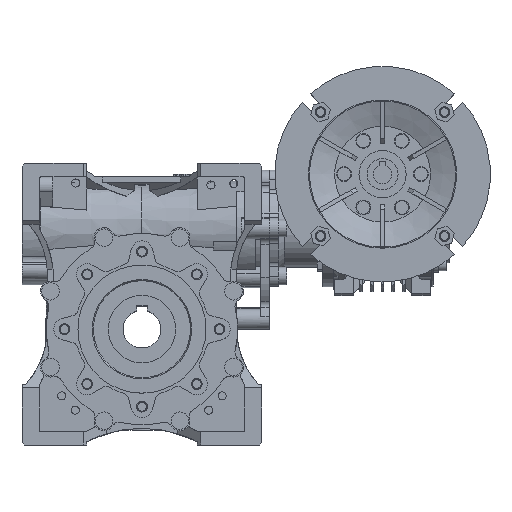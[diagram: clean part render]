
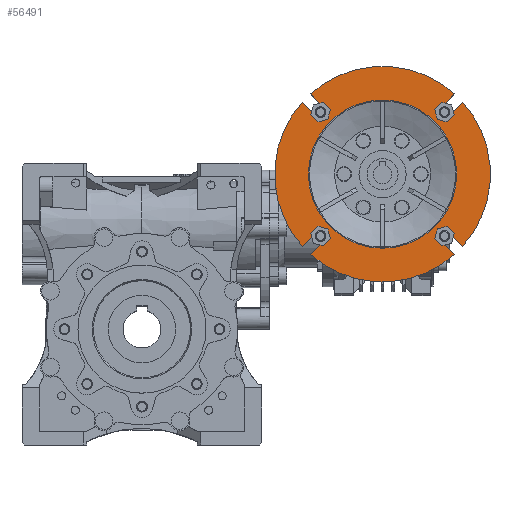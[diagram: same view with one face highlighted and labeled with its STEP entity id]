
A CAD part, top view. The second image highlights one B-rep face of the part: STEP entity #56491.
In plain terms, the highlighted planar face has unit normal (0, 0, 1) as drawn and (1, 0, 0) by its records, which use the part's own axes.
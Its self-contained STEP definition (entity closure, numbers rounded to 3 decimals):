
#1641=PLANE('',#60512);
#5340=LINE('',#85193,#9119);
#5341=LINE('',#85194,#9120);
#5342=LINE('',#85198,#9121);
#5343=LINE('',#85199,#9122);
#5344=LINE('',#85203,#9123);
#5345=LINE('',#85204,#9124);
#5346=LINE('',#85208,#9125);
#5347=LINE('',#85209,#9126);
#9119=VECTOR('',#71899,1000.);
#9120=VECTOR('',#71900,1000.);
#9121=VECTOR('',#71903,1000.);
#9122=VECTOR('',#71904,1000.);
#9123=VECTOR('',#71907,1000.);
#9124=VECTOR('',#71908,1000.);
#9125=VECTOR('',#71911,1000.);
#9126=VECTOR('',#71912,1000.);
#10870=CIRCLE('',#60436,80.);
#10873=CIRCLE('',#60440,80.);
#10875=CIRCLE('',#60443,80.);
#10921=CIRCLE('',#60511,80.);
#10922=CIRCLE('',#60513,55.);
#10923=CIRCLE('',#60514,4.25);
#10924=CIRCLE('',#60515,4.25);
#10925=CIRCLE('',#60516,4.25);
#10926=CIRCLE('',#60517,4.25);
#21934=ORIENTED_EDGE('',*,*,#28313,.F.);
#21935=ORIENTED_EDGE('',*,*,#28314,.F.);
#21936=ORIENTED_EDGE('',*,*,#28315,.T.);
#21937=ORIENTED_EDGE('',*,*,#28138,.T.);
#21938=ORIENTED_EDGE('',*,*,#28316,.T.);
#21939=ORIENTED_EDGE('',*,*,#28317,.F.);
#21940=ORIENTED_EDGE('',*,*,#28318,.T.);
#21941=ORIENTED_EDGE('',*,*,#28148,.T.);
#21942=ORIENTED_EDGE('',*,*,#28319,.T.);
#21943=ORIENTED_EDGE('',*,*,#28320,.F.);
#21944=ORIENTED_EDGE('',*,*,#28321,.T.);
#21945=ORIENTED_EDGE('',*,*,#28144,.T.);
#21946=ORIENTED_EDGE('',*,*,#28322,.T.);
#21947=ORIENTED_EDGE('',*,*,#28323,.F.);
#21948=ORIENTED_EDGE('',*,*,#28324,.T.);
#21949=ORIENTED_EDGE('',*,*,#28311,.T.);
#21950=ORIENTED_EDGE('',*,*,#28325,.T.);
#28138=EDGE_CURVE('',#32279,#32280,#10870,.T.);
#28144=EDGE_CURVE('',#32286,#32285,#10873,.T.);
#28148=EDGE_CURVE('',#32290,#32289,#10875,.T.);
#28311=EDGE_CURVE('',#32419,#32418,#10921,.T.);
#28313=EDGE_CURVE('',#32420,#32420,#10922,.T.);
#28314=EDGE_CURVE('',#32421,#32422,#10923,.F.);
#28315=EDGE_CURVE('',#32421,#32279,#5340,.T.);
#28316=EDGE_CURVE('',#32280,#32423,#5341,.T.);
#28317=EDGE_CURVE('',#32424,#32423,#10924,.F.);
#28318=EDGE_CURVE('',#32424,#32290,#5342,.T.);
#28319=EDGE_CURVE('',#32289,#32425,#5343,.T.);
#28320=EDGE_CURVE('',#32426,#32425,#10925,.F.);
#28321=EDGE_CURVE('',#32426,#32286,#5344,.T.);
#28322=EDGE_CURVE('',#32285,#32427,#5345,.T.);
#28323=EDGE_CURVE('',#32428,#32427,#10926,.F.);
#28324=EDGE_CURVE('',#32428,#32419,#5346,.T.);
#28325=EDGE_CURVE('',#32418,#32422,#5347,.T.);
#32279=VERTEX_POINT('',#84715);
#32280=VERTEX_POINT('',#84716);
#32285=VERTEX_POINT('',#84727);
#32286=VERTEX_POINT('',#84729);
#32289=VERTEX_POINT('',#84736);
#32290=VERTEX_POINT('',#84738);
#32418=VERTEX_POINT('',#85183);
#32419=VERTEX_POINT('',#85185);
#32420=VERTEX_POINT('',#85189);
#32421=VERTEX_POINT('',#85191);
#32422=VERTEX_POINT('',#85192);
#32423=VERTEX_POINT('',#85195);
#32424=VERTEX_POINT('',#85197);
#32425=VERTEX_POINT('',#85200);
#32426=VERTEX_POINT('',#85202);
#32427=VERTEX_POINT('',#85205);
#32428=VERTEX_POINT('',#85207);
#35366=EDGE_LOOP('',(#21934));
#35367=EDGE_LOOP('',(#21935,#21936,#21937,#21938,#21939,#21940,#21941,#21942,
#21943,#21944,#21945,#21946,#21947,#21948,#21949,#21950));
#38059=FACE_BOUND('',#35366,.T.);
#38060=FACE_BOUND('',#35367,.T.);
#56491=ADVANCED_FACE('',(#38059,#38060),#1641,.F.);
#60436=AXIS2_PLACEMENT_3D('',#84714,#71657,#71658);
#60440=AXIS2_PLACEMENT_3D('',#84728,#71668,#71669);
#60443=AXIS2_PLACEMENT_3D('',#84737,#71676,#71677);
#60511=AXIS2_PLACEMENT_3D('',#85184,#71890,#71891);
#60512=AXIS2_PLACEMENT_3D('',#85187,#71893,#71894);
#60513=AXIS2_PLACEMENT_3D('',#85188,#71895,#71896);
#60514=AXIS2_PLACEMENT_3D('',#85190,#71897,#71898);
#60515=AXIS2_PLACEMENT_3D('',#85196,#71901,#71902);
#60516=AXIS2_PLACEMENT_3D('',#85201,#71905,#71906);
#60517=AXIS2_PLACEMENT_3D('',#85206,#71909,#71910);
#71657=DIRECTION('',(1.,0.,0.));
#71658=DIRECTION('',(0.,0.,-1.));
#71668=DIRECTION('',(1.,0.,0.));
#71669=DIRECTION('',(0.,0.,-1.));
#71676=DIRECTION('',(1.,0.,0.));
#71677=DIRECTION('',(0.,0.,-1.));
#71890=DIRECTION('',(1.,0.,0.));
#71891=DIRECTION('',(0.,0.,-1.));
#71893=DIRECTION('',(-1.,0.,0.));
#71894=DIRECTION('',(0.,0.,1.));
#71895=DIRECTION('',(1.,0.,0.));
#71896=DIRECTION('',(0.,0.,-1.));
#71897=DIRECTION('',(-1.,0.,0.));
#71898=DIRECTION('',(0.,0.,1.));
#71899=DIRECTION('',(0.,0.707,0.707));
#71900=DIRECTION('',(0.,0.707,-0.707));
#71901=DIRECTION('',(-1.,0.,0.));
#71902=DIRECTION('',(0.,0.,1.));
#71903=DIRECTION('',(0.,-0.707,0.707));
#71904=DIRECTION('',(0.,0.707,0.707));
#71905=DIRECTION('',(-1.,0.,0.));
#71906=DIRECTION('',(0.,0.,1.));
#71907=DIRECTION('',(0.,-0.707,-0.707));
#71908=DIRECTION('',(0.,-0.707,0.707));
#71909=DIRECTION('',(-1.,0.,0.));
#71910=DIRECTION('',(0.,0.,1.));
#71911=DIRECTION('',(0.,0.707,-0.707));
#71912=DIRECTION('',(0.,-0.707,-0.707));
#84714=CARTESIAN_POINT('',(25.,0.,0.));
#84715=CARTESIAN_POINT('',(25.,53.483,59.494));
#84716=CARTESIAN_POINT('',(25.,-53.483,59.494));
#84727=CARTESIAN_POINT('',(25.,53.483,-59.494));
#84728=CARTESIAN_POINT('',(25.,0.,0.));
#84729=CARTESIAN_POINT('',(25.,-53.483,-59.494));
#84736=CARTESIAN_POINT('',(25.,-59.494,-53.483));
#84737=CARTESIAN_POINT('',(25.,0.,0.));
#84738=CARTESIAN_POINT('',(25.,-59.494,53.483));
#85183=CARTESIAN_POINT('',(25.,59.494,53.483));
#85184=CARTESIAN_POINT('',(25.,0.,0.));
#85185=CARTESIAN_POINT('',(25.,59.494,-53.483));
#85187=CARTESIAN_POINT('',(25.,80.,0.));
#85188=CARTESIAN_POINT('',(25.,0.,0.));
#85189=CARTESIAN_POINT('',(25.,0.,-55.));
#85190=CARTESIAN_POINT('',(25.,45.962,45.962));
#85191=CARTESIAN_POINT('',(25.,42.957,48.967));
#85192=CARTESIAN_POINT('',(25.,48.967,42.957));
#85193=CARTESIAN_POINT('',(25.,36.995,43.005));
#85194=CARTESIAN_POINT('',(25.,43.005,-36.995));
#85195=CARTESIAN_POINT('',(25.,-42.957,48.967));
#85196=CARTESIAN_POINT('',(25.,-45.962,45.962));
#85197=CARTESIAN_POINT('',(25.,-48.967,42.957));
#85198=CARTESIAN_POINT('',(25.,36.995,-43.005));
#85199=CARTESIAN_POINT('',(25.,36.995,43.005));
#85200=CARTESIAN_POINT('',(25.,-48.967,-42.957));
#85201=CARTESIAN_POINT('',(25.,-45.962,-45.962));
#85202=CARTESIAN_POINT('',(25.,-42.957,-48.967));
#85203=CARTESIAN_POINT('',(25.,43.005,36.995));
#85204=CARTESIAN_POINT('',(25.,36.995,-43.005));
#85205=CARTESIAN_POINT('',(25.,42.957,-48.967));
#85206=CARTESIAN_POINT('',(25.,45.962,-45.962));
#85207=CARTESIAN_POINT('',(25.,48.967,-42.957));
#85208=CARTESIAN_POINT('',(25.,43.005,-36.995));
#85209=CARTESIAN_POINT('',(25.,43.005,36.995));
